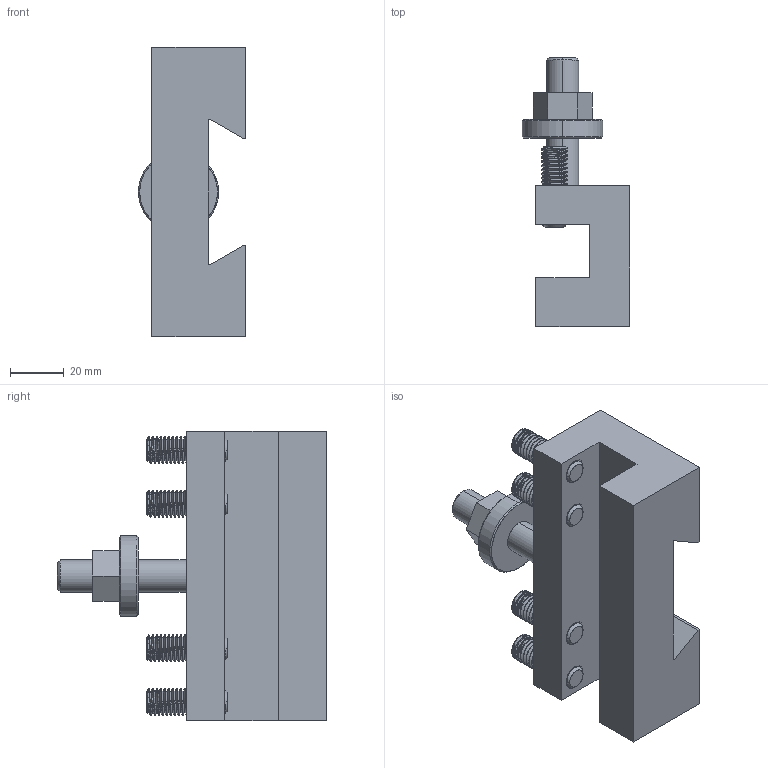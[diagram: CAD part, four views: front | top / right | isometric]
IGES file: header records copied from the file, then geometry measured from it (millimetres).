
Start section: SolidWorks IGES file using analytic representation for surfaces
Global section: file name: R:\Drawings\Files saved as other types\Solid_Models\MODELS FOR PUBLIC\33123 QC TOOL BLOCK ASSY.IGS; native system: SolidWorks 2012; preprocessor: SolidWorks 2012; author: rtooley; date: 140731.103124; units: millimetre
Bounding box: 40 x 100.39 x 108 mm (x, y, z)
Surface area: 38289.5 mm2 (no closed solid volume)
Topology: 0 solids, 0 shells, 333 faces, 5388 edges, 5380 vertices
Faces by surface type: revolution 239, bspline 94
